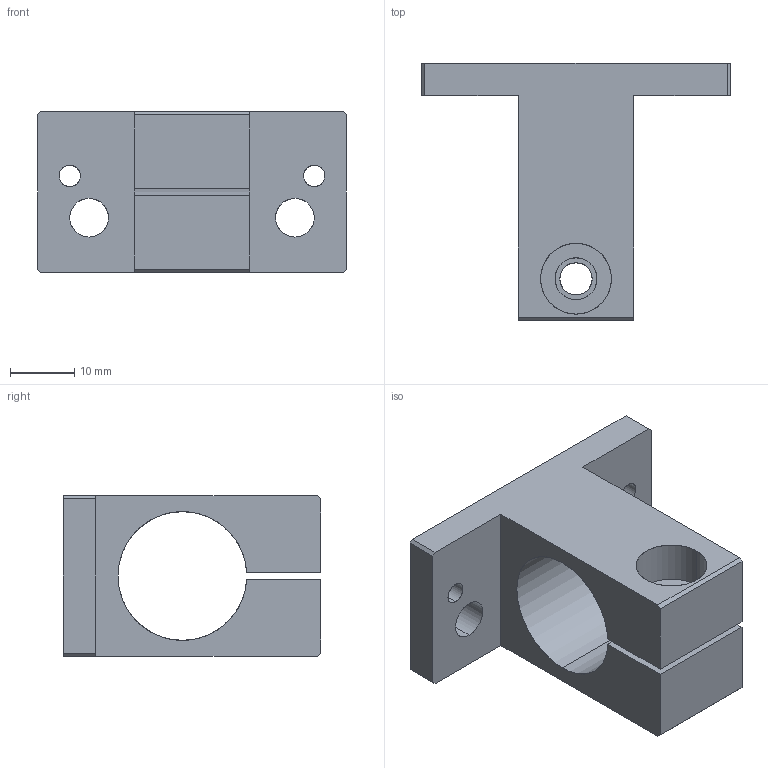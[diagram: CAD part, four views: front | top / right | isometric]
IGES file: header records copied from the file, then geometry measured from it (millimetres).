
Start section: SolidWorks IGES file using analytic representation for surfaces
Global section: file name: C:\Documents and Settings\CAD53\デスクトップ\IGES\N01866-303-1.IGS; native system: SolidWorks 2005 by SolidWorks Corporation; preprocessor: SolidWorks 2005 by SolidWorks Corporation; author: CAD53; date: 070530.113621; units: millimetre
Bounding box: 48 x 40 x 25 mm (x, y, z)
Surface area: 7544.8 mm2 (no closed solid volume)
Topology: 0 solids, 0 shells, 37 faces, 682 edges, 682 vertices
Faces by surface type: bspline 20, revolution 17
